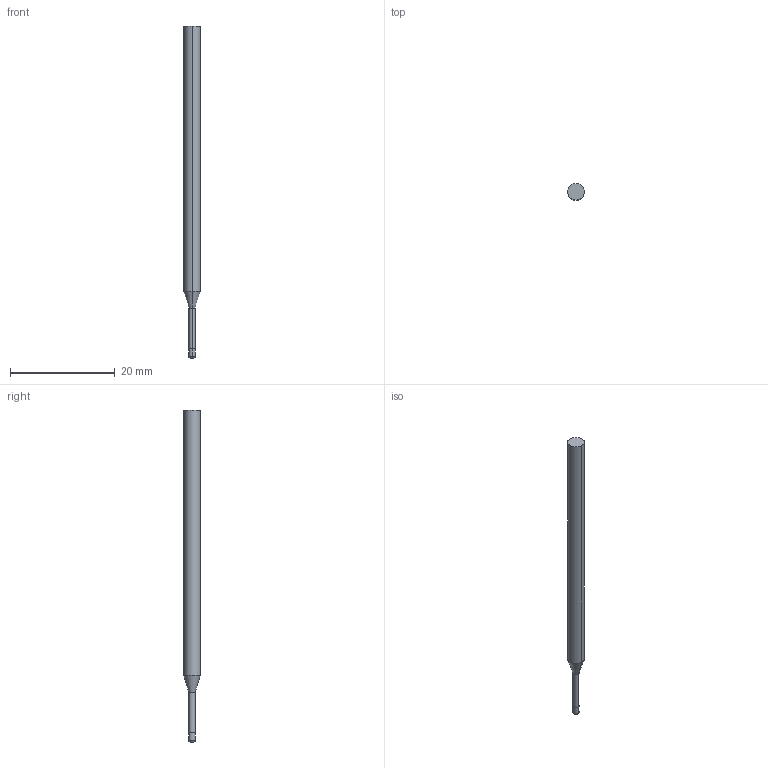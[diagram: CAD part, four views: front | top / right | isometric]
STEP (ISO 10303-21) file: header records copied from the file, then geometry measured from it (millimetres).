
FILE_DESCRIPTION((' '),'2;1');
FILE_NAME( '3MVS0468R.010N8AH.stp', '2026-01-21T19:07:36', (' '), ('--- Datakit www.datakit.com---'), ' Datakit CrossCadWare V2025.4 Sep 19 2025', 'Mastercam 2027', ' ');
FILE_SCHEMA(('AUTOMOTIVE_DESIGN { 1 0 10303 214 1 1 1 1 }'));
Length unit declared in the file: inch
Products named in the file (1): 3MVS0468R
Bounding box: 3.17 x 3.17 x 63.5 mm (x, y, z)
Volume: 425.1 mm3; surface area: 573.4 mm2
Topology: 1 solids, 1 shells, 12 faces, 22 edges, 12 vertices
Faces by surface type: cylinder 6, plane 2, torus 2, cone 2
Entity records: 377 total; most frequent: DIRECTION 70, CARTESIAN_POINT 51, ORIENTED_EDGE 44, AXIS2_PLACEMENT_3D 31, EDGE_CURVE 22, CIRCLE 14, VERTEX_POINT 12, EDGE_LOOP 12
